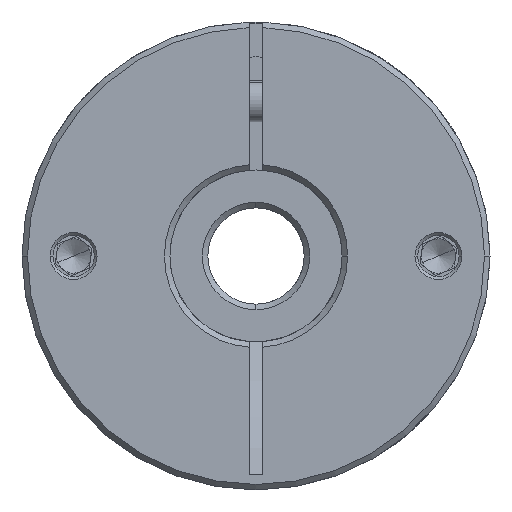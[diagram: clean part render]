
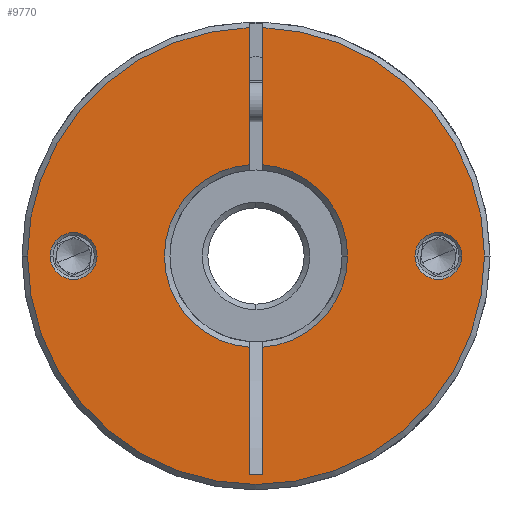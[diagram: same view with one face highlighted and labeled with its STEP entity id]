
A CAD part, front view. The second image highlights one B-rep face of the part: STEP entity #9770.
In plain terms, the highlighted planar face has unit normal (0, -1, 0).
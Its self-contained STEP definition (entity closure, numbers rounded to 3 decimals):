
#117 = CARTESIAN_POINT ( 'NONE',  ( -1.735, -47.045, 68. ) ) ;
#232 = AXIS2_PLACEMENT_3D ( 'NONE', #8967, #2769, #5755 ) ;
#301 = DIRECTION ( 'NONE',  ( 0., 1., 0. ) ) ;
#456 = ORIENTED_EDGE ( 'NONE', *, *, #6220, .T. ) ;
#462 = ORIENTED_EDGE ( 'NONE', *, *, #3879, .F. ) ;
#511 = CARTESIAN_POINT ( 'NONE',  ( -29.235, -47.045, 68. ) ) ;
#627 = EDGE_CURVE ( 'NONE', #1888, #12526, #12088, .T. ) ;
#637 = VERTEX_POINT ( 'NONE', #3184 ) ;
#805 = VERTEX_POINT ( 'NONE', #1713 ) ;
#981 = VECTOR ( 'NONE', #11294, 1000. ) ;
#987 = CARTESIAN_POINT ( 'NONE',  ( -29.235, -47.045, 68. ) ) ;
#1013 = VERTEX_POINT ( 'NONE', #12418 ) ;
#1015 = VERTEX_POINT ( 'NONE', #11427 ) ;
#1159 = DIRECTION ( 'NONE',  ( 1., 0., 0. ) ) ;
#1300 = LINE ( 'NONE', #10267, #981 ) ;
#1425 = AXIS2_PLACEMENT_3D ( 'NONE', #2115, #9371, #5090 ) ;
#1455 = VERTEX_POINT ( 'NONE', #5223 ) ;
#1466 = CARTESIAN_POINT ( 'NONE',  ( -2.735, -47.045, 68. ) ) ;
#1713 = CARTESIAN_POINT ( 'NONE',  ( -1.735, -47.045, 54.738 ) ) ;
#1836 = EDGE_LOOP ( 'NONE', ( #462, #5912, #2209, #4574, #4183, #10665, #456, #12241, #3559, #6539, #3534 ) ) ;
#1888 = VERTEX_POINT ( 'NONE', #13373 ) ;
#1922 = DIRECTION ( 'NONE',  ( 0., 0., -1. ) ) ;
#2115 = CARTESIAN_POINT ( 'NONE',  ( -2.735, -47.045, 68. ) ) ;
#2201 = EDGE_CURVE ( 'NONE', #1455, #3563, #11897, .T. ) ;
#2209 = ORIENTED_EDGE ( 'NONE', *, *, #7295, .T. ) ;
#2556 = VERTEX_POINT ( 'NONE', #5072 ) ;
#2672 = CARTESIAN_POINT ( 'NONE',  ( -2.735, -47.045, 68. ) ) ;
#2769 = DIRECTION ( 'NONE',  ( 0., 1., 0. ) ) ;
#2834 = CARTESIAN_POINT ( 'NONE',  ( -2.735, -47.045, 68. ) ) ;
#2887 = VECTOR ( 'NONE', #10262, 1000. ) ;
#3013 = DIRECTION ( 'NONE',  ( 1., 0., 0. ) ) ;
#3036 = CARTESIAN_POINT ( 'NONE',  ( -2.735, -47.045, 68. ) ) ;
#3087 = DIRECTION ( 'NONE',  ( 0., 1., 0. ) ) ;
#3184 = CARTESIAN_POINT ( 'NONE',  ( -3.735, -47.045, 101.185 ) ) ;
#3218 = FACE_OUTER_BOUND ( 'NONE', #1836, .T. ) ;
#3258 = ORIENTED_EDGE ( 'NONE', *, *, #12849, .T. ) ;
#3367 = VECTOR ( 'NONE', #10540, 1000. ) ;
#3399 = ORIENTED_EDGE ( 'NONE', *, *, #7489, .T. ) ;
#3534 = ORIENTED_EDGE ( 'NONE', *, *, #5950, .T. ) ;
#3559 = ORIENTED_EDGE ( 'NONE', *, *, #4735, .T. ) ;
#3563 = VERTEX_POINT ( 'NONE', #5311 ) ;
#3584 = DIRECTION ( 'NONE',  ( 0., 1., 0. ) ) ;
#3595 = DIRECTION ( 'NONE',  ( 1., 0., 0. ) ) ;
#3675 = VERTEX_POINT ( 'NONE', #4341 ) ;
#3866 = VECTOR ( 'NONE', #1922, 1000. ) ;
#3879 = EDGE_CURVE ( 'NONE', #637, #3675, #10856, .T. ) ;
#4183 = ORIENTED_EDGE ( 'NONE', *, *, #4844, .T. ) ;
#4341 = CARTESIAN_POINT ( 'NONE',  ( -3.735, -47.045, 81.262 ) ) ;
#4574 = ORIENTED_EDGE ( 'NONE', *, *, #627, .T. ) ;
#4605 = DIRECTION ( 'NONE',  ( 1., 0., 0. ) ) ;
#4705 = CIRCLE ( 'NONE', #9394, 3.4 ) ;
#4718 = DIRECTION ( 'NONE',  ( 0., 1., 0. ) ) ;
#4735 = EDGE_CURVE ( 'NONE', #1015, #10313, #1300, .T. ) ;
#4844 = EDGE_CURVE ( 'NONE', #12526, #12128, #6447, .T. ) ;
#5072 = CARTESIAN_POINT ( 'NONE',  ( 20.365, -47.045, 68. ) ) ;
#5090 = DIRECTION ( 'NONE',  ( 1., 0., 0. ) ) ;
#5223 = CARTESIAN_POINT ( 'NONE',  ( -32.635, -47.045, 68. ) ) ;
#5311 = CARTESIAN_POINT ( 'NONE',  ( -25.835, -47.045, 68. ) ) ;
#5687 = EDGE_CURVE ( 'NONE', #637, #11213, #13112, .T. ) ;
#5755 = DIRECTION ( 'NONE',  ( 1., 0., 0. ) ) ;
#5804 = AXIS2_PLACEMENT_3D ( 'NONE', #1466, #301, #10772 ) ;
#5912 = ORIENTED_EDGE ( 'NONE', *, *, #5687, .T. ) ;
#5950 = EDGE_CURVE ( 'NONE', #1013, #3675, #6875, .T. ) ;
#6065 = PLANE ( 'NONE',  #12662 ) ;
#6220 = EDGE_CURVE ( 'NONE', #7815, #805, #9330, .T. ) ;
#6447 = LINE ( 'NONE', #12725, #3367 ) ;
#6539 = ORIENTED_EDGE ( 'NONE', *, *, #10436, .F. ) ;
#6689 = CIRCLE ( 'NONE', #232, 3.4 ) ;
#6875 = CIRCLE ( 'NONE', #5804, 13.3 ) ;
#7214 = DIRECTION ( 'NONE',  ( 0., -1., 0. ) ) ;
#7217 = LINE ( 'NONE', #117, #9171 ) ;
#7295 = EDGE_CURVE ( 'NONE', #11213, #1888, #7868, .T. ) ;
#7308 = CARTESIAN_POINT ( 'NONE',  ( -2.735, -47.045, 68. ) ) ;
#7348 = EDGE_CURVE ( 'NONE', #805, #1015, #7217, .T. ) ;
#7489 = EDGE_CURVE ( 'NONE', #2556, #13202, #6689, .T. ) ;
#7721 = CARTESIAN_POINT ( 'NONE',  ( 23.765, -47.045, 68. ) ) ;
#7735 = DIRECTION ( 'NONE',  ( 0., -1., 0. ) ) ;
#7815 = VERTEX_POINT ( 'NONE', #9181 ) ;
#7868 = CIRCLE ( 'NONE', #1425, 33.2 ) ;
#7897 = EDGE_CURVE ( 'NONE', #12128, #7815, #12240, .T. ) ;
#7943 = AXIS2_PLACEMENT_3D ( 'NONE', #2834, #4718, #10016 ) ;
#8106 = CARTESIAN_POINT ( 'NONE',  ( -3.735, -47.045, 36.279 ) ) ;
#8167 = CARTESIAN_POINT ( 'NONE',  ( -1.735, -47.045, 101.185 ) ) ;
#8181 = CARTESIAN_POINT ( 'NONE',  ( -1.735, -47.045, 81.262 ) ) ;
#8259 = FACE_BOUND ( 'NONE', #12553, .T. ) ;
#8339 = EDGE_CURVE ( 'NONE', #13202, #2556, #10921, .T. ) ;
#8441 = ORIENTED_EDGE ( 'NONE', *, *, #8339, .T. ) ;
#8613 = DIRECTION ( 'NONE',  ( 0., 0., -1. ) ) ;
#8967 = CARTESIAN_POINT ( 'NONE',  ( 23.765, -47.045, 68. ) ) ;
#9132 = AXIS2_PLACEMENT_3D ( 'NONE', #3036, #3087, #10320 ) ;
#9171 = VECTOR ( 'NONE', #8613, 1000. ) ;
#9181 = CARTESIAN_POINT ( 'NONE',  ( 10.565, -47.045, 68. ) ) ;
#9330 = CIRCLE ( 'NONE', #7943, 13.3 ) ;
#9371 = DIRECTION ( 'NONE',  ( 0., -1., 0. ) ) ;
#9394 = AXIS2_PLACEMENT_3D ( 'NONE', #511, #12844, #3595 ) ;
#9770 = ADVANCED_FACE ( 'NONE', ( #8259, #10507, #3218 ), #6065, .T. ) ;
#9974 = EDGE_LOOP ( 'NONE', ( #3258, #10753 ) ) ;
#10016 = DIRECTION ( 'NONE',  ( 1., 0., 0. ) ) ;
#10164 = AXIS2_PLACEMENT_3D ( 'NONE', #7721, #3584, #4605 ) ;
#10262 = DIRECTION ( 'NONE',  ( 0., 0., -1. ) ) ;
#10267 = CARTESIAN_POINT ( 'NONE',  ( -3.735, -47.045, 36.279 ) ) ;
#10276 = DIRECTION ( 'NONE',  ( 0., 1., 0. ) ) ;
#10313 = VERTEX_POINT ( 'NONE', #8106 ) ;
#10320 = DIRECTION ( 'NONE',  ( 1., 0., 0. ) ) ;
#10436 = EDGE_CURVE ( 'NONE', #1013, #10313, #12954, .T. ) ;
#10507 = FACE_BOUND ( 'NONE', #9974, .T. ) ;
#10540 = DIRECTION ( 'NONE',  ( 0., 0., -1. ) ) ;
#10665 = ORIENTED_EDGE ( 'NONE', *, *, #7897, .T. ) ;
#10753 = ORIENTED_EDGE ( 'NONE', *, *, #2201, .T. ) ;
#10772 = DIRECTION ( 'NONE',  ( 1., 0., 0. ) ) ;
#10856 = LINE ( 'NONE', #11243, #3866 ) ;
#10914 = DIRECTION ( 'NONE',  ( 1., 0., 0. ) ) ;
#10921 = CIRCLE ( 'NONE', #10164, 3.4 ) ;
#10951 = CARTESIAN_POINT ( 'NONE',  ( -35.935, -47.045, 68. ) ) ;
#11041 = AXIS2_PLACEMENT_3D ( 'NONE', #7308, #7214, #11412 ) ;
#11213 = VERTEX_POINT ( 'NONE', #10951 ) ;
#11243 = CARTESIAN_POINT ( 'NONE',  ( -3.735, -47.045, 68. ) ) ;
#11294 = DIRECTION ( 'NONE',  ( -1., 0., 0. ) ) ;
#11412 = DIRECTION ( 'NONE',  ( 1., 0., 0. ) ) ;
#11427 = CARTESIAN_POINT ( 'NONE',  ( -1.735, -47.045, 36.279 ) ) ;
#11897 = CIRCLE ( 'NONE', #13467, 3.4 ) ;
#12088 = CIRCLE ( 'NONE', #11041, 33.2 ) ;
#12128 = VERTEX_POINT ( 'NONE', #8181 ) ;
#12240 = CIRCLE ( 'NONE', #9132, 13.3 ) ;
#12241 = ORIENTED_EDGE ( 'NONE', *, *, #7348, .T. ) ;
#12377 = DIRECTION ( 'NONE',  ( 0., -1., 0. ) ) ;
#12418 = CARTESIAN_POINT ( 'NONE',  ( -3.735, -47.045, 54.738 ) ) ;
#12432 = CARTESIAN_POINT ( 'NONE',  ( 27.165, -47.045, 68. ) ) ;
#12526 = VERTEX_POINT ( 'NONE', #8167 ) ;
#12553 = EDGE_LOOP ( 'NONE', ( #8441, #3399 ) ) ;
#12662 = AXIS2_PLACEMENT_3D ( 'NONE', #13313, #12377, #3013 ) ;
#12725 = CARTESIAN_POINT ( 'NONE',  ( -1.735, -47.045, 68. ) ) ;
#12844 = DIRECTION ( 'NONE',  ( 0., 1., 0. ) ) ;
#12849 = EDGE_CURVE ( 'NONE', #3563, #1455, #4705, .T. ) ;
#12907 = AXIS2_PLACEMENT_3D ( 'NONE', #2672, #7735, #10914 ) ;
#12954 = LINE ( 'NONE', #13468, #2887 ) ;
#13112 = CIRCLE ( 'NONE', #12907, 33.2 ) ;
#13202 = VERTEX_POINT ( 'NONE', #12432 ) ;
#13313 = CARTESIAN_POINT ( 'NONE',  ( -2.735, -47.045, 68. ) ) ;
#13373 = CARTESIAN_POINT ( 'NONE',  ( 30.465, -47.045, 68. ) ) ;
#13467 = AXIS2_PLACEMENT_3D ( 'NONE', #987, #10276, #1159 ) ;
#13468 = CARTESIAN_POINT ( 'NONE',  ( -3.735, -47.045, 68. ) ) ;
